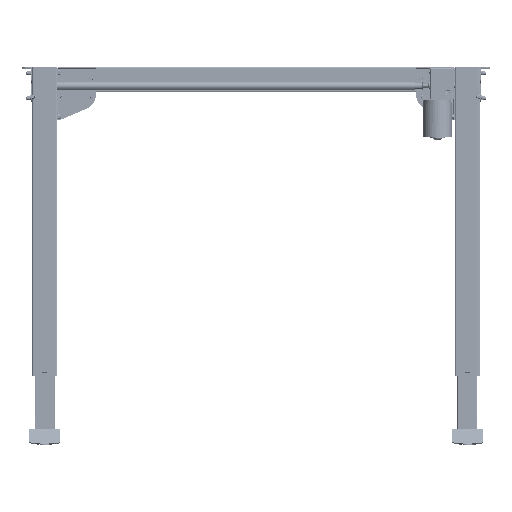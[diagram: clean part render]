
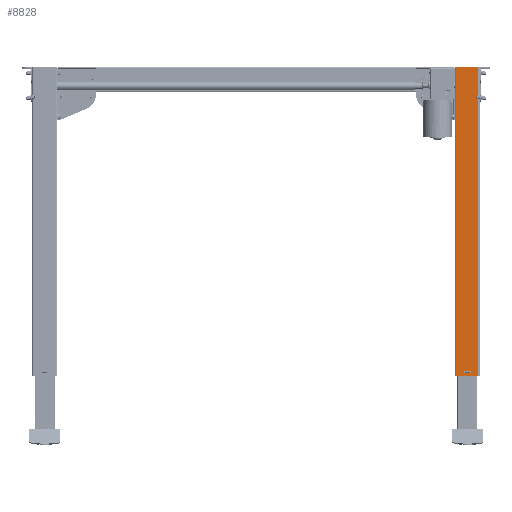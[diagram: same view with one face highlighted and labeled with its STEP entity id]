
A CAD part, top view. The second image highlights one B-rep face of the part: STEP entity #8828.
In plain terms, the highlighted planar face has unit normal (0, 0, 1) as drawn and (0, 1, 0) by its records, which use the part's own axes.
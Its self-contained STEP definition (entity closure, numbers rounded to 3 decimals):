
#1896 = DIRECTION ( 'NONE',  ( 0., 0., 1. ) ) ;
#2831 = LINE ( 'NONE', #148453, #27927 ) ;
#7092 = EDGE_CURVE ( 'NONE', #115274, #55046, #161522, .T. ) ;
#8828 = ADVANCED_FACE ( 'NONE', ( #157741, #40266 ), #66796, .F. ) ;
#12707 = EDGE_CURVE ( 'NONE', #46875, #46343, #36678, .T. ) ;
#14482 = CARTESIAN_POINT ( 'NONE',  ( -22., 35., 0. ) ) ;
#14508 = ORIENTED_EDGE ( 'NONE', *, *, #29543, .F. ) ;
#15555 = VECTOR ( 'NONE', #118988, 1000. ) ;
#16688 = ORIENTED_EDGE ( 'NONE', *, *, #136329, .F. ) ;
#17907 = CARTESIAN_POINT ( 'NONE',  ( 6.15, 35., 10. ) ) ;
#18279 = CARTESIAN_POINT ( 'NONE',  ( -6.15, 35., 6. ) ) ;
#20996 = ORIENTED_EDGE ( 'NONE', *, *, #68710, .F. ) ;
#23797 = VERTEX_POINT ( 'NONE', #18279 ) ;
#27927 = VECTOR ( 'NONE', #122664, 1000. ) ;
#29543 = EDGE_CURVE ( 'NONE', #106904, #166633, #119596, .T. ) ;
#31173 = DIRECTION ( 'NONE',  ( 0., 0., -1. ) ) ;
#34085 = CARTESIAN_POINT ( 'NONE',  ( -6.15, 35., 10. ) ) ;
#36024 = ORIENTED_EDGE ( 'NONE', *, *, #7092, .T. ) ;
#36678 = LINE ( 'NONE', #127524, #66132 ) ;
#40266 = FACE_OUTER_BOUND ( 'NONE', #51591, .T. ) ;
#40375 = LINE ( 'NONE', #159548, #102128 ) ;
#42437 = DIRECTION ( 'NONE',  ( 0., 0., -1. ) ) ;
#42979 = CARTESIAN_POINT ( 'NONE',  ( 6.15, 35., 6. ) ) ;
#46343 = VERTEX_POINT ( 'NONE', #76390 ) ;
#46875 = VERTEX_POINT ( 'NONE', #17907 ) ;
#51591 = EDGE_LOOP ( 'NONE', ( #72396, #14508, #20996, #36024 ) ) ;
#52053 = DIRECTION ( 'NONE',  ( 0., 0., -1. ) ) ;
#55046 = VERTEX_POINT ( 'NONE', #115542 ) ;
#55227 = CARTESIAN_POINT ( 'NONE',  ( 6.15, 35., 10. ) ) ;
#57561 = EDGE_CURVE ( 'NONE', #55046, #166633, #120670, .T. ) ;
#57789 = VERTEX_POINT ( 'NONE', #34085 ) ;
#58236 = CARTESIAN_POINT ( 'NONE',  ( -22., 35., 0. ) ) ;
#66132 = VECTOR ( 'NONE', #52053, 1000. ) ;
#66796 = PLANE ( 'NONE',  #84168 ) ;
#67188 = EDGE_LOOP ( 'NONE', ( #153955, #159389, #16688, #144964 ) ) ;
#68710 = EDGE_CURVE ( 'NONE', #115274, #106904, #2831, .T. ) ;
#69905 = EDGE_CURVE ( 'NONE', #46343, #23797, #148454, .T. ) ;
#72396 = ORIENTED_EDGE ( 'NONE', *, *, #57561, .T. ) ;
#76390 = CARTESIAN_POINT ( 'NONE',  ( 6.15, 35., 6. ) ) ;
#79615 = DIRECTION ( 'NONE',  ( 0., -1., 0. ) ) ;
#84168 = AXIS2_PLACEMENT_3D ( 'NONE', #93319, #79615, #159431 ) ;
#91226 = VECTOR ( 'NONE', #120140, 1000. ) ;
#93319 = CARTESIAN_POINT ( 'NONE',  ( -22., 35., 614. ) ) ;
#94595 = LINE ( 'NONE', #55227, #154789 ) ;
#96229 = CARTESIAN_POINT ( 'NONE',  ( 22., 35., 614. ) ) ;
#100312 = EDGE_CURVE ( 'NONE', #23797, #57789, #40375, .T. ) ;
#102128 = VECTOR ( 'NONE', #1896, 1000. ) ;
#106904 = VERTEX_POINT ( 'NONE', #144357 ) ;
#115274 = VERTEX_POINT ( 'NONE', #162667 ) ;
#115542 = CARTESIAN_POINT ( 'NONE',  ( 22., 35., 0. ) ) ;
#118988 = DIRECTION ( 'NONE',  ( -1., 0., 0. ) ) ;
#119303 = VECTOR ( 'NONE', #31173, 1000. ) ;
#119596 = LINE ( 'NONE', #156542, #149193 ) ;
#120140 = DIRECTION ( 'NONE',  ( -1., 0., 0. ) ) ;
#120670 = LINE ( 'NONE', #14482, #15555 ) ;
#122664 = DIRECTION ( 'NONE',  ( -1., 0., 0. ) ) ;
#127524 = CARTESIAN_POINT ( 'NONE',  ( 6.15, 35., 6. ) ) ;
#133235 = DIRECTION ( 'NONE',  ( 1., 0., 0. ) ) ;
#136329 = EDGE_CURVE ( 'NONE', #57789, #46875, #94595, .T. ) ;
#144357 = CARTESIAN_POINT ( 'NONE',  ( -22., 35., 616.5 ) ) ;
#144964 = ORIENTED_EDGE ( 'NONE', *, *, #100312, .F. ) ;
#148453 = CARTESIAN_POINT ( 'NONE',  ( 22., 35., 616.5 ) ) ;
#148454 = LINE ( 'NONE', #42979, #91226 ) ;
#149193 = VECTOR ( 'NONE', #42437, 1000. ) ;
#153955 = ORIENTED_EDGE ( 'NONE', *, *, #69905, .F. ) ;
#154789 = VECTOR ( 'NONE', #133235, 1000. ) ;
#156542 = CARTESIAN_POINT ( 'NONE',  ( -22., 35., 614. ) ) ;
#157741 = FACE_BOUND ( 'NONE', #67188, .T. ) ;
#159389 = ORIENTED_EDGE ( 'NONE', *, *, #12707, .F. ) ;
#159431 = DIRECTION ( 'NONE',  ( 0., 0., -1. ) ) ;
#159548 = CARTESIAN_POINT ( 'NONE',  ( -6.15, 35., 6. ) ) ;
#161522 = LINE ( 'NONE', #96229, #119303 ) ;
#162667 = CARTESIAN_POINT ( 'NONE',  ( 22., 35., 616.5 ) ) ;
#166633 = VERTEX_POINT ( 'NONE', #58236 ) ;
